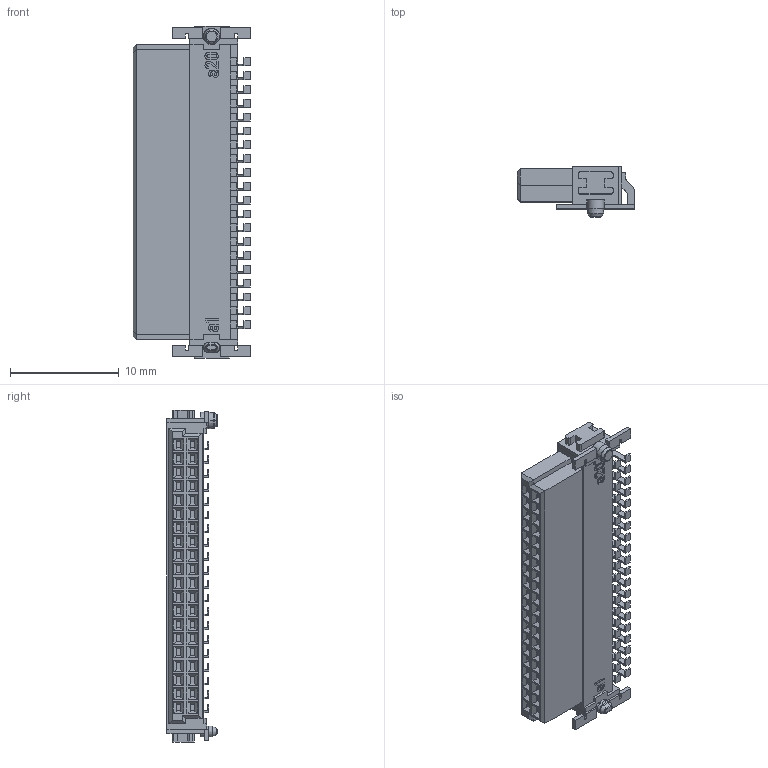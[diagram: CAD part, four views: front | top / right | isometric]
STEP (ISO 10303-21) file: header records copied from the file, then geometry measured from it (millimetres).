
FILE_DESCRIPTION (( 'STEP AP214' ), '1' );
FILE_NAME ('354081.STEP', '2010-06-02T09:38:32', ( 'CCM-Client: 00859' ), ( 'ERNI' ), 'SwSTEP 2.0', 'SolidWorks 2010', '' );
FILE_SCHEMA (( 'AUTOMOTIVE_DESIGN' ));
Length unit declared in the file: millimetre
Products named in the file (1): 354081
Bounding box: 10.8 x 4.6 x 30.48 mm (x, y, z)
Volume: 843.1 mm3; surface area: 1091.1 mm2
Topology: 1 solids, 1 shells, 1077 faces, 2992 edges, 1968 vertices
Faces by surface type: plane 849, cylinder 164, bspline 48, cone 8, torus 8
Entity records: 48769 total; most frequent: CARTESIAN_POINT 9302, ORIENTED_EDGE 5984, DIRECTION 5306, EDGE_CURVE 2992, LINE 2538, VECTOR 2538, VERTEX_POINT 1968, AXIS2_PLACEMENT_3D 1384
